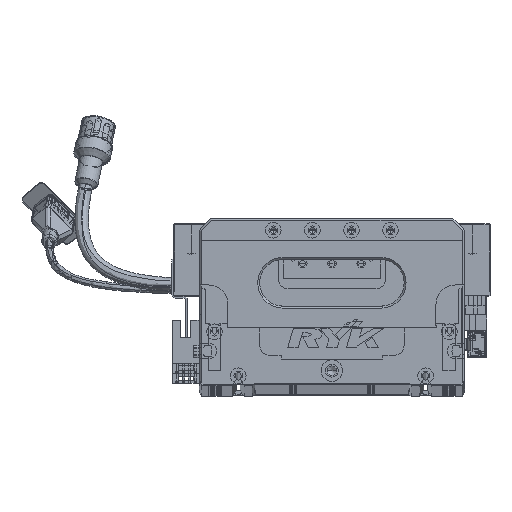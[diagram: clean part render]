
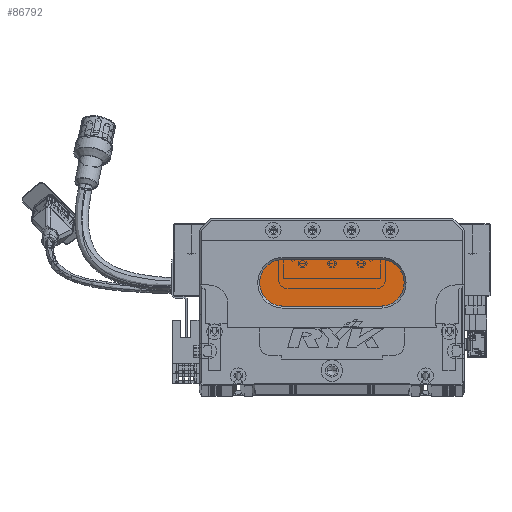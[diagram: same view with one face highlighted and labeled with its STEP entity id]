
A CAD part, top view. The second image highlights one B-rep face of the part: STEP entity #86792.
In plain terms, the highlighted planar face has unit normal (0, 0, 1) as drawn and (0, 0, -1) by its records, which use the part's own axes.
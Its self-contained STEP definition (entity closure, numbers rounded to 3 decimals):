
#5192 = CARTESIAN_POINT ( 'NONE',  ( 93., 64., 13. ) ) ;
#6912 = VERTEX_POINT ( 'NONE', #111468 ) ;
#8919 = CIRCLE ( 'NONE', #113999, 12. ) ;
#10077 = CARTESIAN_POINT ( 'NONE',  ( 43., 64., 13. ) ) ;
#17877 = DIRECTION ( 'NONE',  ( 0., 0., -1. ) ) ;
#18631 = EDGE_CURVE ( 'NONE', #126702, #28559, #125803, .T. ) ;
#27804 = LINE ( 'NONE', #88714, #82400 ) ;
#28559 = VERTEX_POINT ( 'NONE', #10077 ) ;
#31259 = EDGE_CURVE ( 'NONE', #134141, #6912, #128782, .T. ) ;
#32714 = DIRECTION ( 'NONE',  ( 1., 0., 0. ) ) ;
#33682 = DIRECTION ( 'NONE',  ( -1., 0., 0. ) ) ;
#36457 = ORIENTED_EDGE ( 'NONE', *, *, #18631, .T. ) ;
#44626 = CARTESIAN_POINT ( 'NONE',  ( 93., 52., 13. ) ) ;
#45039 = DIRECTION ( 'NONE',  ( 0., 0., -1. ) ) ;
#51233 = ORIENTED_EDGE ( 'NONE', *, *, #81058, .T. ) ;
#55822 = VECTOR ( 'NONE', #105048, 1000. ) ;
#58547 = CARTESIAN_POINT ( 'NONE',  ( 43., 52., 13. ) ) ;
#64776 = PLANE ( 'NONE',  #89006 ) ;
#66265 = ORIENTED_EDGE ( 'NONE', *, *, #31259, .T. ) ;
#70299 = DIRECTION ( 'NONE',  ( 0., 0., -1. ) ) ;
#72867 = VERTEX_POINT ( 'NONE', #103300 ) ;
#73479 = CARTESIAN_POINT ( 'NONE',  ( 43., 52., 13. ) ) ;
#80572 = FACE_OUTER_BOUND ( 'NONE', #88615, .T. ) ;
#81058 = EDGE_CURVE ( 'NONE', #72867, #126702, #8919, .T. ) ;
#82400 = VECTOR ( 'NONE', #32714, 1000. ) ;
#85617 = LINE ( 'NONE', #104553, #55822 ) ;
#86792 = ADVANCED_FACE ( 'NONE', ( #80572 ), #64776, .T. ) ;
#88615 = EDGE_LOOP ( 'NONE', ( #66265, #125622, #51233, #36457, #113044 ) ) ;
#88714 = CARTESIAN_POINT ( 'NONE',  ( 93., 64., 13. ) ) ;
#89006 = AXIS2_PLACEMENT_3D ( 'NONE', #44626, #121758, #110944 ) ;
#93619 = AXIS2_PLACEMENT_3D ( 'NONE', #101039, #45039, #33682 ) ;
#93870 = DIRECTION ( 'NONE',  ( -1., 0., 0. ) ) ;
#101039 = CARTESIAN_POINT ( 'NONE',  ( 93., 52., 13. ) ) ;
#103300 = CARTESIAN_POINT ( 'NONE',  ( 43., 40., 13. ) ) ;
#104553 = CARTESIAN_POINT ( 'NONE',  ( 93., 40., 13. ) ) ;
#105048 = DIRECTION ( 'NONE',  ( -1., 0., 0. ) ) ;
#110944 = DIRECTION ( 'NONE',  ( -1., 0., 0. ) ) ;
#111468 = CARTESIAN_POINT ( 'NONE',  ( 93., 40., 13. ) ) ;
#113044 = ORIENTED_EDGE ( 'NONE', *, *, #132781, .T. ) ;
#113999 = AXIS2_PLACEMENT_3D ( 'NONE', #73479, #17877, #119183 ) ;
#117141 = AXIS2_PLACEMENT_3D ( 'NONE', #58547, #70299, #93870 ) ;
#119183 = DIRECTION ( 'NONE',  ( -1., 0., 0. ) ) ;
#121758 = DIRECTION ( 'NONE',  ( 0., 0., -1. ) ) ;
#125622 = ORIENTED_EDGE ( 'NONE', *, *, #132449, .T. ) ;
#125803 = CIRCLE ( 'NONE', #117141, 12. ) ;
#126702 = VERTEX_POINT ( 'NONE', #127124 ) ;
#127124 = CARTESIAN_POINT ( 'NONE',  ( 31., 52., 13. ) ) ;
#128782 = CIRCLE ( 'NONE', #93619, 12. ) ;
#132449 = EDGE_CURVE ( 'NONE', #6912, #72867, #85617, .T. ) ;
#132781 = EDGE_CURVE ( 'NONE', #28559, #134141, #27804, .T. ) ;
#134141 = VERTEX_POINT ( 'NONE', #5192 ) ;
